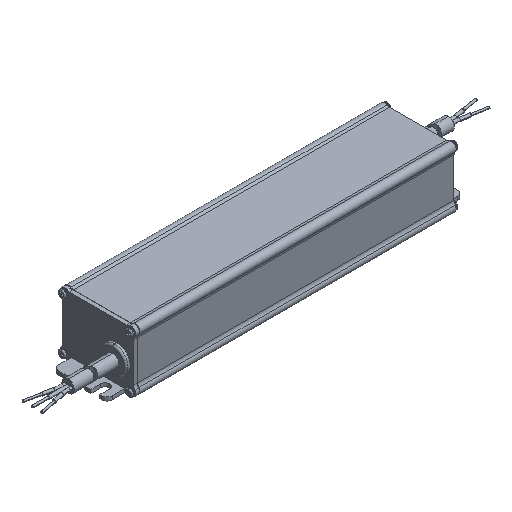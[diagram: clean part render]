
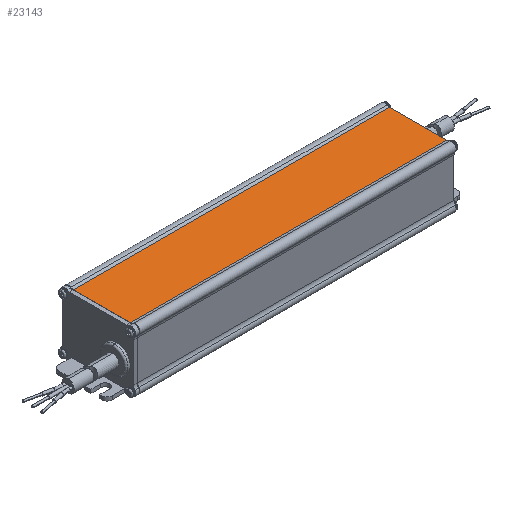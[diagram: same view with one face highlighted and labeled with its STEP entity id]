
A CAD part, isometric view. The second image highlights one B-rep face of the part: STEP entity #23143.
In plain terms, the highlighted free-form (B-spline) face has degree [3, 3] with [4, 4] control points.
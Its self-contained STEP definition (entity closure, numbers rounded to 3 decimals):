
#17239=DIRECTION('',(-1.,0.,0.));
#17240=VECTOR('',#17239,177.25);
#17241=CARTESIAN_POINT('',(184.,-15.977,33.25));
#17242=LINE('',#17241,#17240);
#17243=DIRECTION('',(-1.,0.,0.));
#17244=VECTOR('',#17243,177.25);
#17245=CARTESIAN_POINT('',(184.,15.977,33.25));
#17246=LINE('',#17245,#17244);
#17247=DIRECTION('',(0.,1.,0.));
#17248=VECTOR('',#17247,31.955);
#17249=CARTESIAN_POINT('',(184.,-15.977,33.25));
#17250=LINE('',#17249,#17248);
#17314=DIRECTION('',(0.,1.,0.));
#17315=VECTOR('',#17314,31.955);
#17316=CARTESIAN_POINT('',(6.75,-15.977,33.25));
#17317=LINE('',#17316,#17315);
#22202=CARTESIAN_POINT('',(184.,15.977,33.25));
#22203=VERTEX_POINT('',#22202);
#22204=CARTESIAN_POINT('',(184.,-15.977,33.25));
#22205=VERTEX_POINT('',#22204);
#22822=CARTESIAN_POINT('',(6.75,15.977,33.25));
#22823=VERTEX_POINT('',#22822);
#22824=CARTESIAN_POINT('',(6.75,-15.977,33.25));
#22825=VERTEX_POINT('',#22824);
#23118=CARTESIAN_POINT('',(187.545,-16.616,33.25));
#23119=CARTESIAN_POINT('',(126.098,-16.616,33.25));
#23120=CARTESIAN_POINT('',(64.652,-16.616,33.25));
#23121=CARTESIAN_POINT('',(3.205,-16.616,33.25));
#23122=CARTESIAN_POINT('',(187.545,-5.539,33.25));
#23123=CARTESIAN_POINT('',(126.098,-5.539,33.25));
#23124=CARTESIAN_POINT('',(64.652,-5.539,33.25));
#23125=CARTESIAN_POINT('',(3.205,-5.539,33.25));
#23126=CARTESIAN_POINT('',(187.545,5.539,33.25));
#23127=CARTESIAN_POINT('',(126.098,5.539,33.25));
#23128=CARTESIAN_POINT('',(64.652,5.539,33.25));
#23129=CARTESIAN_POINT('',(3.205,5.539,33.25));
#23130=CARTESIAN_POINT('',(187.545,16.616,33.25));
#23131=CARTESIAN_POINT('',(126.098,16.616,33.25));
#23132=CARTESIAN_POINT('',(64.652,16.616,33.25));
#23133=CARTESIAN_POINT('',(3.205,16.616,33.25));
#23134=B_SPLINE_SURFACE_WITH_KNOTS('',3,3,((#23118,#23119,#23120,#23121),
(#23122,#23123,#23124,#23125),(#23126,#23127,#23128,#23129),(#23130,#23131,
#23132,#23133)),.UNSPECIFIED.,.F.,.F.,.F.,(4,4),(4,4),(-0.639,
32.594),(-5.795,178.545),.UNSPECIFIED.);
#23136=ORIENTED_EDGE('',*,*,#23135,.T.);
#23138=ORIENTED_EDGE('',*,*,#23137,.F.);
#23139=ORIENTED_EDGE('',*,*,#23109,.F.);
#23140=ORIENTED_EDGE('',*,*,#22893,.T.);
#23141=EDGE_LOOP('',(#23136,#23138,#23139,#23140));
#23142=FACE_OUTER_BOUND('',#23141,.F.);
#23143=ADVANCED_FACE('',(#23142),#23134,.F.);
#22893=EDGE_CURVE('',#22205,#22203,#17250,.T.);
#23109=EDGE_CURVE('',#22205,#22825,#17242,.T.);
#23135=EDGE_CURVE('',#22203,#22823,#17246,.T.);
#23137=EDGE_CURVE('',#22825,#22823,#17317,.T.);
